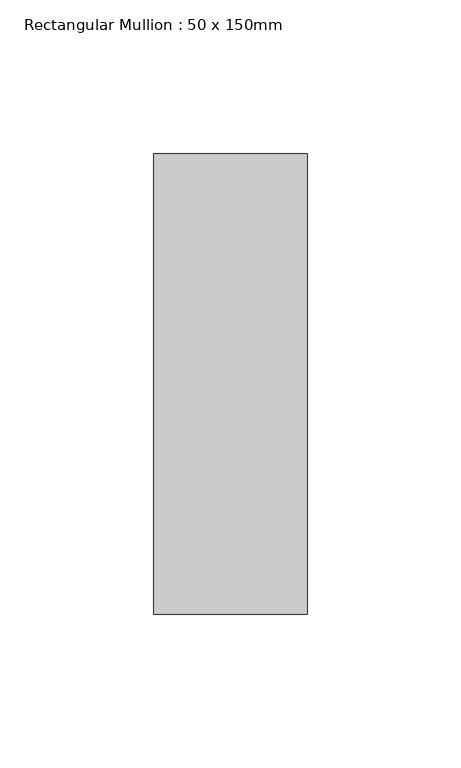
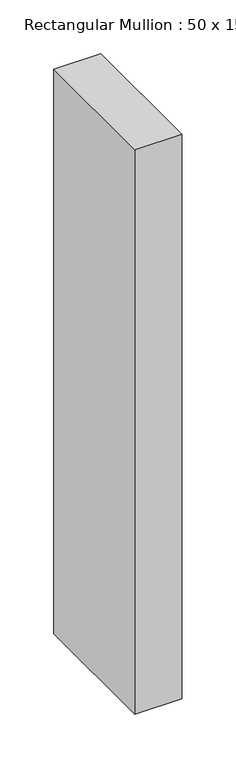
"""IFC4 building model written with IfcOpenShell, lengths in millimetres: member geometry, Rectangular Mullion : 50 x 150mm."""

from ifc_helpers import new_model, si_unit, frame, origin, place, context, project, spatial, polyline, outline, extrude, source, transform, mapped, element, save


def rectangular_mullion_50_x_150mm_44fe3089(model_context):
    return source(origin(), model_context, "Body", "SweptSolid", [
        extrude(outline(polyline([(0.0, 75.0), (0.0, -75.0), (-50.0, -75.0), (-50.0, 75.0), (0.0, 75.0)])), frame((0.0, 0.0, -638.3333335), z_axis=(0.0, 0.0, 1.0), x_axis=(1.0, 0.0, 0.0)), (0.0, 0.0, 1.0), 638.3333335),
    ])


if __name__ == "__main__":
    model = new_model("IFC4")
    model_context = context("Model", 3, world=origin())
    ifc_project = project(units=[si_unit("LENGTHUNIT", "METRE", prefix="MILLI")], contexts=[model_context])
    site = spatial("IfcSite", under=ifc_project)
    building = spatial("IfcBuilding", under=site)
    placement = place(None, origin())
    rectangular_mullion_50_x_150mm_shape = rectangular_mullion_50_x_150mm_44fe3089(model_context)
    element("IfcMember", 1, ObjectType="Rectangular Mullion : 50 x 150mm", at=placement, inside=building, context=model_context, shape_type="MappedRepresentation", body=[
        mapped(rectangular_mullion_50_x_150mm_shape, transform((0.0, 0.0, 0.0), x_axis=(1.0, 0.0, 0.0), y_axis=(0.0, 1.0, 0.0), z_axis=(0.0, 0.0, 1.0))),
    ])
    save(model, "model.ifc")
